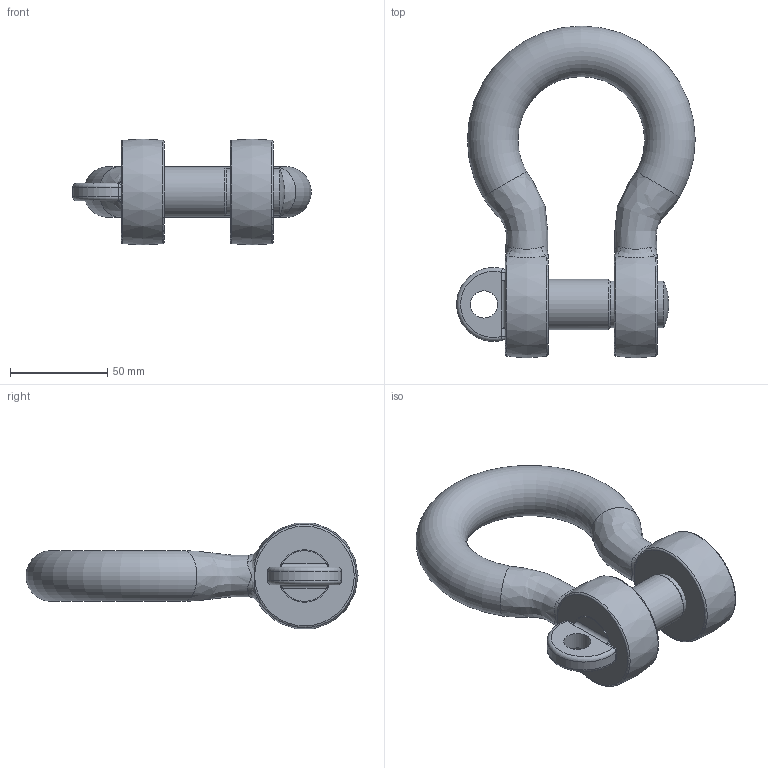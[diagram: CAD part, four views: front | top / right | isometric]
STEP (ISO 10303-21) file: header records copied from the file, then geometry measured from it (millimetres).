
FILE_DESCRIPTION(/* description */ (''),/* implementation_level */ '2;1');
FILE_NAME(/* name */ 'C:\Users\D\Documents\Inventor\HP\吊具\シャックル\BC_2\bc_22.stp',/* time_stamp */ '2024-11-20T10:49:07+09:00',/* author */ ('D'),/* organization */ (''),/* preprocessor_version */ 'ST-DEVELOPER v18',/* originating_system */ 'Autodesk Inventor 2020',/* authorisation */ '');
FILE_SCHEMA (('AUTOMOTIVE_DESIGN { 1 0 10303 214 3 1 1 }'));
Length unit declared in the file: millimetre
Products named in the file (3): bc_22; ba_6; bc-sc_pin_6
Assembly tree (2 placements, depth 2):
  bc_22
    ba_6
    bc-sc_pin_6
Bounding box: 122.43 x 170.5 x 54.33 mm (x, y, z)
Volume: 263272 mm3; surface area: 49722.7 mm2
Topology: 4 solids, 4 shells, 53 faces, 129 edges, 84 vertices
Faces by surface type: cylinder 14, plane 14, bspline 12, torus 7, sphere 5, cone 1
Full cylindrical faces by diameter (mm): 14 x1, 20.752 x1, 24 x1, 26 x1, 27 x1
Entity records: 2872 total; most frequent: CARTESIAN_POINT 1552, ORIENTED_EDGE 258, DIRECTION 256, EDGE_CURVE 129, AXIS2_PLACEMENT_3D 117, VERTEX_POINT 84, CIRCLE 71, EDGE_LOOP 59
